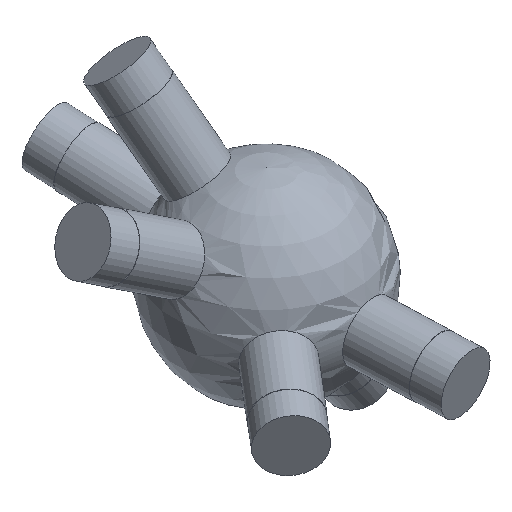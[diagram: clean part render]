
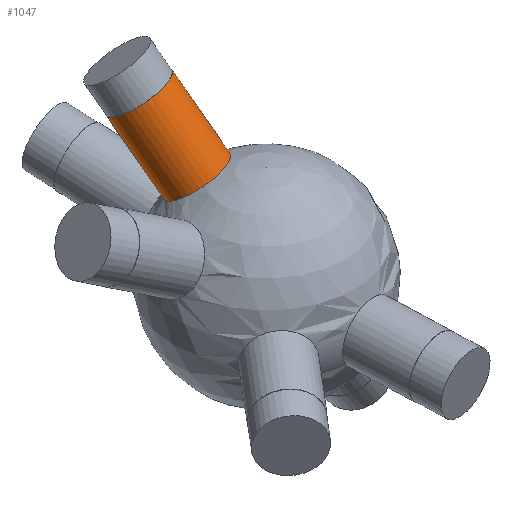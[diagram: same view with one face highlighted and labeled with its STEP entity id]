
A CAD part, isometric view. The second image highlights one B-rep face of the part: STEP entity #1047.
In plain terms, the highlighted cylindrical face has radius 6 mm (diameter 12 mm), a full revolution.
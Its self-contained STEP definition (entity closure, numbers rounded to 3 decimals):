
#33 = SPHERICAL_SURFACE('',#34,20.);
#34 = AXIS2_PLACEMENT_3D('',#35,#36,#37);
#35 = CARTESIAN_POINT('',(0.,0.,0.));
#36 = DIRECTION('',(0.,0.,1.));
#37 = DIRECTION('',(1.,0.,-0.));
#573 = EDGE_CURVE('',#574,#574,#576,.T.);
#574 = VERTEX_POINT('',#575);
#575 = CARTESIAN_POINT('',(-4.422,15.266,
    12.14));
#576 = SURFACE_CURVE('',#577,(#582,#665),.PCURVE_S1.);
#577 = CIRCLE('',#578,6.);
#578 = AXIS2_PLACEMENT_3D('',#579,#580,#581);
#579 = CARTESIAN_POINT('',(-4.422,10.268,
    15.46));
#580 = DIRECTION('',(-0.232,0.538,0.81));
#581 = DIRECTION('',(0.,-0.833,0.553)
  );
#582 = PCURVE('',#33,#583);
#583 = DEFINITIONAL_REPRESENTATION('',(#584),#664);
#584 = B_SPLINE_CURVE_WITH_KNOTS('',8,(#585,#586,#587,#588,#589,#590,
    #591,#592,#593,#594,#595,#596,#597,#598,#599,#600,#601,#602,#603,
    #604,#605,#606,#607,#608,#609,#610,#611,#612,#613,#614,#615,#616,
    #617,#618,#619,#620,#621,#622,#623,#624,#625,#626,#627,#628,#629,
    #630,#631,#632,#633,#634,#635,#636,#637,#638,#639,#640,#641,#642,
    #643,#644,#645,#646,#647,#648,#649,#650,#651,#652,#653,#654,#655,
    #656,#657,#658,#659,#660,#661,#662,#663),.UNSPECIFIED.,.T.,.F.,(9,7,
    7,7,7,7,7,7,7,7,7,9),(3.142,3.927,4.614,
    5.216,5.742,6.202,6.605,
    6.957,7.266,7.806,8.615,
    9.425),.UNSPECIFIED.);
#585 = CARTESIAN_POINT('',(1.853,0.652));
#586 = CARTESIAN_POINT('',(1.889,0.645));
#587 = CARTESIAN_POINT('',(1.925,0.64));
#588 = CARTESIAN_POINT('',(1.962,0.638));
#589 = CARTESIAN_POINT('',(1.999,0.638));
#590 = CARTESIAN_POINT('',(2.036,0.64));
#591 = CARTESIAN_POINT('',(2.072,0.645));
#592 = CARTESIAN_POINT('',(2.108,0.652));
#593 = CARTESIAN_POINT('',(2.174,0.67));
#594 = CARTESIAN_POINT('',(2.205,0.68));
#595 = CARTESIAN_POINT('',(2.235,0.692));
#596 = CARTESIAN_POINT('',(2.263,0.706));
#597 = CARTESIAN_POINT('',(2.291,0.721));
#598 = CARTESIAN_POINT('',(2.318,0.737));
#599 = CARTESIAN_POINT('',(2.344,0.755));
#600 = CARTESIAN_POINT('',(2.389,0.791));
#601 = CARTESIAN_POINT('',(2.409,0.809));
#602 = CARTESIAN_POINT('',(2.428,0.827));
#603 = CARTESIAN_POINT('',(2.445,0.847));
#604 = CARTESIAN_POINT('',(2.461,0.867));
#605 = CARTESIAN_POINT('',(2.475,0.888));
#606 = CARTESIAN_POINT('',(2.486,0.909));
#607 = CARTESIAN_POINT('',(2.504,0.95));
#608 = CARTESIAN_POINT('',(2.511,0.97));
#609 = CARTESIAN_POINT('',(2.515,0.989));
#610 = CARTESIAN_POINT('',(2.517,1.009));
#611 = CARTESIAN_POINT('',(2.517,1.029));
#612 = CARTESIAN_POINT('',(2.514,1.049));
#613 = CARTESIAN_POINT('',(2.507,1.068));
#614 = CARTESIAN_POINT('',(2.488,1.104));
#615 = CARTESIAN_POINT('',(2.476,1.12));
#616 = CARTESIAN_POINT('',(2.46,1.136));
#617 = CARTESIAN_POINT('',(2.441,1.152));
#618 = CARTESIAN_POINT('',(2.419,1.167));
#619 = CARTESIAN_POINT('',(2.391,1.181));
#620 = CARTESIAN_POINT('',(2.36,1.193));
#621 = CARTESIAN_POINT('',(2.292,1.215));
#622 = CARTESIAN_POINT('',(2.257,1.224));
#623 = CARTESIAN_POINT('',(2.219,1.232));
#624 = CARTESIAN_POINT('',(2.177,1.238));
#625 = CARTESIAN_POINT('',(2.133,1.243));
#626 = CARTESIAN_POINT('',(2.086,1.247));
#627 = CARTESIAN_POINT('',(2.039,1.249));
#628 = CARTESIAN_POINT('',(1.949,1.25));
#629 = CARTESIAN_POINT('',(1.907,1.249));
#630 = CARTESIAN_POINT('',(1.866,1.247));
#631 = CARTESIAN_POINT('',(1.825,1.243));
#632 = CARTESIAN_POINT('',(1.786,1.239));
#633 = CARTESIAN_POINT('',(1.75,1.233));
#634 = CARTESIAN_POINT('',(1.716,1.227));
#635 = CARTESIAN_POINT('',(1.656,1.213));
#636 = CARTESIAN_POINT('',(1.631,1.205));
#637 = CARTESIAN_POINT('',(1.607,1.198));
#638 = CARTESIAN_POINT('',(1.585,1.189));
#639 = CARTESIAN_POINT('',(1.565,1.18));
#640 = CARTESIAN_POINT('',(1.548,1.171));
#641 = CARTESIAN_POINT('',(1.532,1.161));
#642 = CARTESIAN_POINT('',(1.493,1.134));
#643 = CARTESIAN_POINT('',(1.473,1.115));
#644 = CARTESIAN_POINT('',(1.459,1.096));
#645 = CARTESIAN_POINT('',(1.449,1.076));
#646 = CARTESIAN_POINT('',(1.442,1.056));
#647 = CARTESIAN_POINT('',(1.439,1.036));
#648 = CARTESIAN_POINT('',(1.439,1.015));
#649 = CARTESIAN_POINT('',(1.445,0.965));
#650 = CARTESIAN_POINT('',(1.454,0.935));
#651 = CARTESIAN_POINT('',(1.468,0.905));
#652 = CARTESIAN_POINT('',(1.485,0.877));
#653 = CARTESIAN_POINT('',(1.506,0.849));
#654 = CARTESIAN_POINT('',(1.53,0.823));
#655 = CARTESIAN_POINT('',(1.556,0.799));
#656 = CARTESIAN_POINT('',(1.613,0.753));
#657 = CARTESIAN_POINT('',(1.643,0.732));
#658 = CARTESIAN_POINT('',(1.675,0.713));
#659 = CARTESIAN_POINT('',(1.709,0.696));
#660 = CARTESIAN_POINT('',(1.743,0.682));
#661 = CARTESIAN_POINT('',(1.779,0.67));
#662 = CARTESIAN_POINT('',(1.816,0.66));
#663 = CARTESIAN_POINT('',(1.853,0.652));
#664 = ( GEOMETRIC_REPRESENTATION_CONTEXT(2) 
PARAMETRIC_REPRESENTATION_CONTEXT() REPRESENTATION_CONTEXT('2D SPACE',''
  ) );
#665 = PCURVE('',#666,#671);
#666 = CYLINDRICAL_SURFACE('',#667,6.);
#667 = AXIS2_PLACEMENT_3D('',#668,#669,#670);
#668 = CARTESIAN_POINT('',(0.,0.,0.));
#669 = DIRECTION('',(-0.232,0.538,0.81));
#670 = DIRECTION('',(0.,0.833,-0.553)
  );
#671 = DEFINITIONAL_REPRESENTATION('',(#672),#676);
#672 = LINE('',#673,#674);
#673 = CARTESIAN_POINT('',(-3.142,19.079));
#674 = VECTOR('',#675,1.);
#675 = DIRECTION('',(1.,0.));
#676 = ( GEOMETRIC_REPRESENTATION_CONTEXT(2) 
PARAMETRIC_REPRESENTATION_CONTEXT() REPRESENTATION_CONTEXT('2D SPACE',''
  ) );
#1047 = ADVANCED_FACE('',(#1048),#666,.T.);
#1048 = FACE_BOUND('',#1049,.T.);
#1049 = EDGE_LOOP('',(#1050,#1073,#1100,#1101));
#1050 = ORIENTED_EDGE('',*,*,#1051,.T.);
#1051 = EDGE_CURVE('',#574,#1052,#1054,.T.);
#1052 = VERTEX_POINT('',#1053);
#1053 = CARTESIAN_POINT('',(-8.116,23.842,
    25.052));
#1054 = SEAM_CURVE('',#1055,(#1059,#1066),.PCURVE_S1.);
#1055 = LINE('',#1056,#1057);
#1056 = CARTESIAN_POINT('',(0.,4.998,
    -3.32));
#1057 = VECTOR('',#1058,1.);
#1058 = DIRECTION('',(-0.232,0.538,0.81));
#1059 = PCURVE('',#666,#1060);
#1060 = DEFINITIONAL_REPRESENTATION('',(#1061),#1065);
#1061 = LINE('',#1062,#1063);
#1062 = CARTESIAN_POINT('',(6.283,-0.));
#1063 = VECTOR('',#1064,1.);
#1064 = DIRECTION('',(0.,1.));
#1065 = ( GEOMETRIC_REPRESENTATION_CONTEXT(2) 
PARAMETRIC_REPRESENTATION_CONTEXT() REPRESENTATION_CONTEXT('2D SPACE',''
  ) );
#1066 = PCURVE('',#666,#1067);
#1067 = DEFINITIONAL_REPRESENTATION('',(#1068),#1072);
#1068 = LINE('',#1069,#1070);
#1069 = CARTESIAN_POINT('',(0.,-0.));
#1070 = VECTOR('',#1071,1.);
#1071 = DIRECTION('',(0.,1.));
#1072 = ( GEOMETRIC_REPRESENTATION_CONTEXT(2) 
PARAMETRIC_REPRESENTATION_CONTEXT() REPRESENTATION_CONTEXT('2D SPACE',''
  ) );
#1073 = ORIENTED_EDGE('',*,*,#1074,.F.);
#1074 = EDGE_CURVE('',#1052,#1052,#1075,.T.);
#1075 = SURFACE_CURVE('',#1076,(#1081,#1088),.PCURVE_S1.);
#1076 = CIRCLE('',#1077,6.);
#1077 = AXIS2_PLACEMENT_3D('',#1078,#1079,#1080);
#1078 = CARTESIAN_POINT('',(-8.116,18.844,
    28.371));
#1079 = DIRECTION('',(-0.232,0.538,0.81));
#1080 = DIRECTION('',(0.,0.833,-0.553
    ));
#1081 = PCURVE('',#666,#1082);
#1082 = DEFINITIONAL_REPRESENTATION('',(#1083),#1087);
#1083 = LINE('',#1084,#1085);
#1084 = CARTESIAN_POINT('',(0.,35.013));
#1085 = VECTOR('',#1086,1.);
#1086 = DIRECTION('',(1.,0.));
#1087 = ( GEOMETRIC_REPRESENTATION_CONTEXT(2) 
PARAMETRIC_REPRESENTATION_CONTEXT() REPRESENTATION_CONTEXT('2D SPACE',''
  ) );
#1088 = PCURVE('',#1089,#1094);
#1089 = PLANE('',#1090);
#1090 = AXIS2_PLACEMENT_3D('',#1091,#1092,#1093);
#1091 = CARTESIAN_POINT('',(-8.116,18.844,
    28.371));
#1092 = DIRECTION('',(-0.232,0.538,0.81));
#1093 = DIRECTION('',(0.,0.833,-0.553)
  );
#1094 = DEFINITIONAL_REPRESENTATION('',(#1095),#1099);
#1095 = CIRCLE('',#1096,6.);
#1096 = AXIS2_PLACEMENT_2D('',#1097,#1098);
#1097 = CARTESIAN_POINT('',(0.,0.));
#1098 = DIRECTION('',(1.,0.));
#1099 = ( GEOMETRIC_REPRESENTATION_CONTEXT(2) 
PARAMETRIC_REPRESENTATION_CONTEXT() REPRESENTATION_CONTEXT('2D SPACE',''
  ) );
#1100 = ORIENTED_EDGE('',*,*,#1051,.F.);
#1101 = ORIENTED_EDGE('',*,*,#573,.T.);
